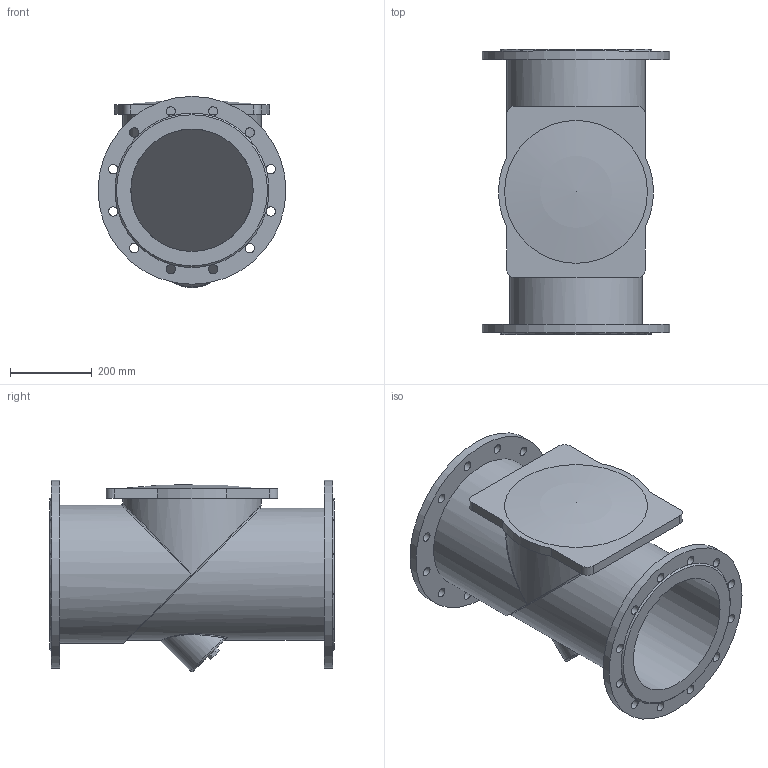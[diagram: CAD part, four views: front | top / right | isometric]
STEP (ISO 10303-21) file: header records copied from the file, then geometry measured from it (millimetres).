
FILE_DESCRIPTION(('STEP AP203'), '1');
FILE_NAME('Êëàïàí îäíîñòâîð÷àòûé îáðàòíûé ôëàíöåâûé 015F.Z DN300 PN10', '', ('UNSPECIFIED'), ('UNSPECIFIED'), 'ASCON STEP Converter 1.6', 'ASCON Math Kernel', '');
FILE_SCHEMA(('CONFIG_CONTROL_DESIGN'));
Length unit declared in the file: millimetre
Bounding box: 460 x 698 x 468.34 mm (x, y, z)
Volume: 21431371.9 mm3; surface area: 2251234.8 mm2
Topology: 1 solids, 2 shells, 78 faces, 255 edges, 166 vertices
Faces by surface type: cylinder 41, plane 27, bspline 6, cone 2, torus 1, sphere 1
Full cylindrical faces by diameter (mm): 23 x24, 300 x2, 315 x1, 324 x1, 339 x2, 460 x2
Entity records: 5996 total; most frequent: CARTESIAN_POINT 3173, DIRECTION 442, ORIENTED_EDGE 432, EDGE_CURVE 216, AXIS2_PLACEMENT_3D 200, VERTEX_POINT 165, EDGE_LOOP 149, CIRCLE 127
